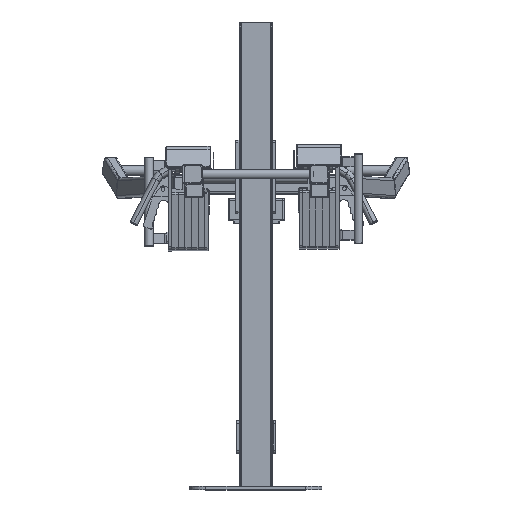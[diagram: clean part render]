
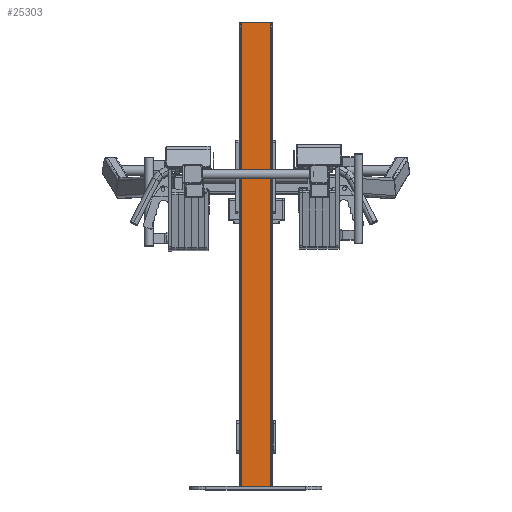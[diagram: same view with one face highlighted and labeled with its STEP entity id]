
A CAD part, top view. The second image highlights one B-rep face of the part: STEP entity #25303.
In plain terms, the highlighted planar face has unit normal (0, 0, 1).
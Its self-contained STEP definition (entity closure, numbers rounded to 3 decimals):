
#1314=PLANE('',#27692);
#2517=FACE_OUTER_BOUND('',#4167,.T.);
#4167=EDGE_LOOP('',(#20885,#20886,#20887,#20888));
#6225=LINE('',#42313,#8469);
#6228=LINE('',#42328,#8472);
#6233=LINE('',#42336,#8477);
#6250=LINE('',#42402,#8494);
#8469=VECTOR('',#33430,10.);
#8472=VECTOR('',#33443,10.);
#8477=VECTOR('',#33452,10.);
#8494=VECTOR('',#33519,10.);
#11928=VERTEX_POINT('',#42307);
#11930=VERTEX_POINT('',#42311);
#11935=VERTEX_POINT('',#42324);
#11937=VERTEX_POINT('',#42327);
#15026=EDGE_CURVE('',#11928,#11930,#6225,.T.);
#15032=EDGE_CURVE('',#11935,#11937,#6228,.T.);
#15038=EDGE_CURVE('',#11935,#11928,#6233,.T.);
#15071=EDGE_CURVE('',#11937,#11930,#6250,.T.);
#20885=ORIENTED_EDGE('',*,*,#15038,.T.);
#20886=ORIENTED_EDGE('',*,*,#15026,.T.);
#20887=ORIENTED_EDGE('',*,*,#15071,.F.);
#20888=ORIENTED_EDGE('',*,*,#15032,.F.);
#25303=ADVANCED_FACE('',(#2517),#1314,.T.);
#27692=AXIS2_PLACEMENT_3D('',#42401,#33517,#33518);
#33430=DIRECTION('',(0.,-1.,0.));
#33443=DIRECTION('',(0.,-1.,0.));
#33452=DIRECTION('',(-1.,0.,0.));
#33517=DIRECTION('center_axis',(0.,0.,1.));
#33518=DIRECTION('ref_axis',(1.,0.,0.));
#33519=DIRECTION('',(-1.,0.,0.));
#42307=CARTESIAN_POINT('',(-44.,1410.,-150.));
#42311=CARTESIAN_POINT('',(-44.,10.,-150.));
#42313=CARTESIAN_POINT('',(-44.,1410.,-150.));
#42324=CARTESIAN_POINT('',(44.,1410.,-150.));
#42327=CARTESIAN_POINT('',(44.,10.,-150.));
#42328=CARTESIAN_POINT('',(44.,1410.,-150.));
#42336=CARTESIAN_POINT('',(-64.194,1410.,-150.));
#42401=CARTESIAN_POINT('Origin',(-114.4,-64.4,-150.));
#42402=CARTESIAN_POINT('',(-44.,10.,-150.));
